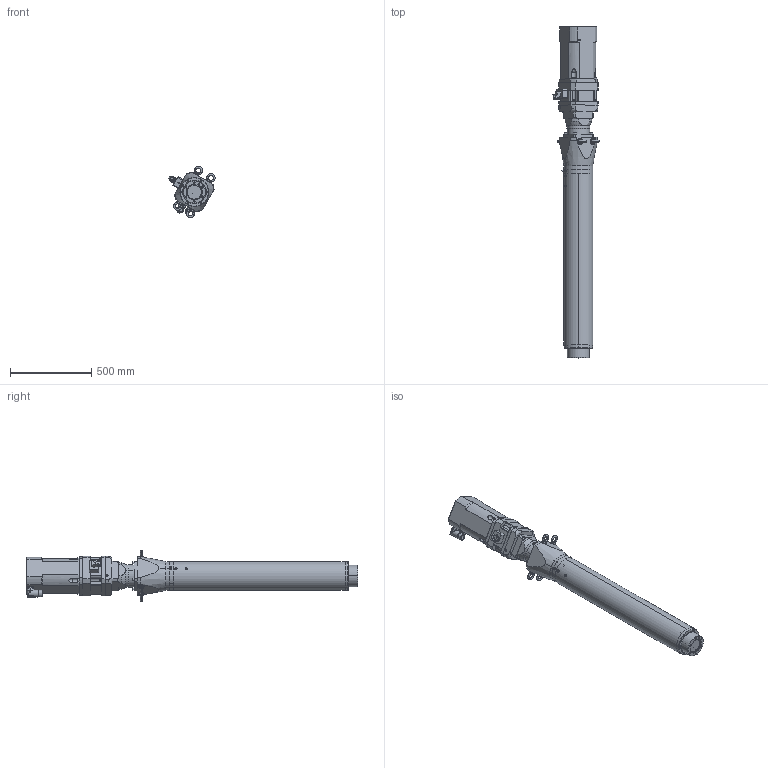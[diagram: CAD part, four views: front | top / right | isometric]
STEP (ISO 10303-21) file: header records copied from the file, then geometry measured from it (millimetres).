
FILE_DESCRIPTION (( 'STEP AP214' ), '1' );
FILE_NAME ('RLWIK100D-075-020SG0.STEP', '2023-04-06T05:51:05', ( '' ), ( '' ), 'SwSTEP 2.0', 'SolidWorks 2021', '' );
FILE_SCHEMA (( 'AUTOMOTIVE_DESIGN' ));
Length unit declared in the file: millimetre
Products named in the file (1): RLWIK100D-075-020SG0
Bounding box: 286.71 x 2048.5 x 317.1 mm (x, y, z)
Volume: 44220292.1 mm3; surface area: 3208070.4 mm2
Topology: 39 solids, 39 shells, 1515 faces, 3599 edges, 2152 vertices
Faces by surface type: cylinder 576, plane 513, cone 238, torus 112, bspline 74, sphere 2
Entity records: 65971 total; most frequent: CARTESIAN_POINT 14154, DIRECTION 7635, ORIENTED_EDGE 6870, EDGE_CURVE 3435, AXIS2_PLACEMENT_3D 3025, VERTEX_POINT 2152, EDGE_LOOP 1767, VECTOR 1585
